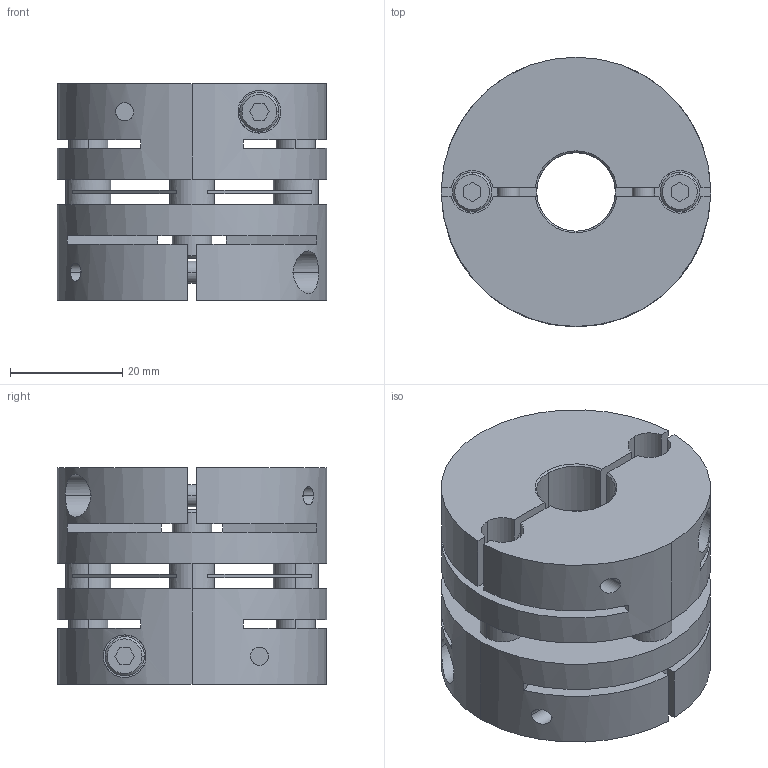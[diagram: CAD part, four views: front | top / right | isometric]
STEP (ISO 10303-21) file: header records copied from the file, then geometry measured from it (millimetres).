
FILE_DESCRIPTION((''),'2;1');
FILE_NAME('LAS-48C-14×15.stp','2013-06-12T09:37:41',(''),(''),'AutoCAD STEP 2000i','AutoCAD 2000i',', , ');
FILE_SCHEMA(('CONFIG_CONTROL_DESIGN'));
Length unit declared in the file: millimetre
Products named in the file (5): LAS-48C-12×12; 忣兜1; LA-4802-D12-1; LA-4802-D12; LAS48-ITA
Assembly tree (4 placements, depth 2):
  LAS-48C-12×12
    忣兜1
    LA-4802-D12-1
    LA-4802-D12
    LAS48-ITA
Bounding box: 48 x 48 x 38.6 mm (x, y, z)
Volume: 50128.8 mm3; surface area: 22547.6 mm2
Topology: 1 solids, 1 shells, 224 faces, 588 edges, 384 vertices
Faces by surface type: plane 112, cylinder 84, cone 28
Entity records: 7607 total; most frequent: CARTESIAN_POINT 1713, DIRECTION 1250, ORIENTED_EDGE 1176, EDGE_CURVE 588, AXIS2_PLACEMENT_3D 457, VERTEX_POINT 384, VECTOR 336, LINE 336
